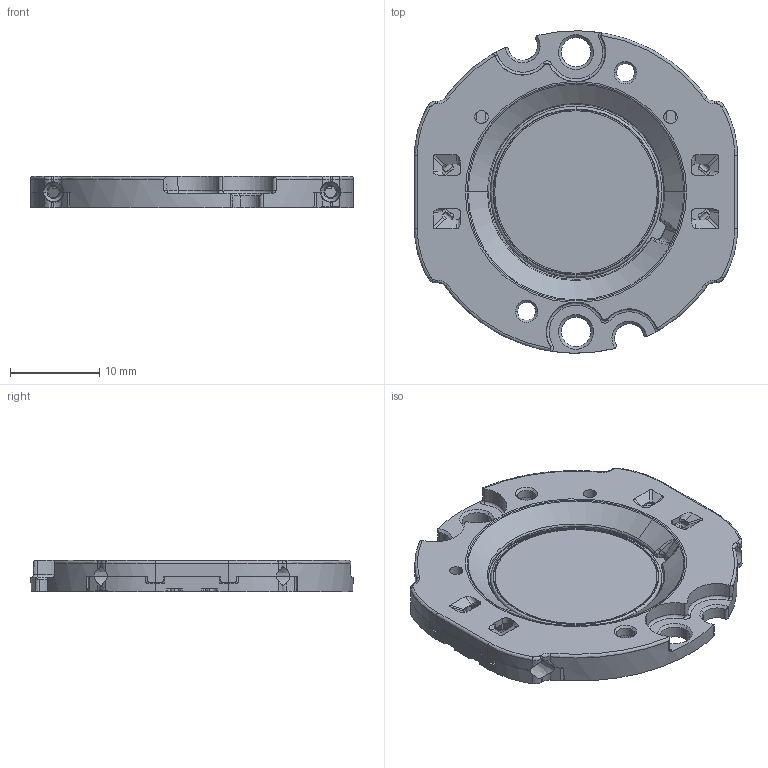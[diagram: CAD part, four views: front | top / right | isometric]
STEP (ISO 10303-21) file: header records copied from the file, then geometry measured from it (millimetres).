
FILE_DESCRIPTION (( 'STEP AP214' ), '1' );
FILE_NAME ('GEN8 Vero18 SE.STEP', '2020-09-15T02:44:06', ( '' ), ( '' ), 'SwSTEP 2.0', 'SolidWorks 2018', '' );
FILE_SCHEMA (( 'AUTOMOTIVE_DESIGN' ));
Length unit declared in the file: millimetre
Products named in the file (1): GEN8 Vero18 SE
Bounding box: 36.26 x 36.19 x 3.5 mm (x, y, z)
Volume: 2183 mm3; surface area: 5030.6 mm2
Topology: 8 solids, 8 shells, 1877 faces, 5151 edges, 3319 vertices
Faces by surface type: bspline 1011, plane 803, cylinder 57, torus 6
Entity records: 89437 total; most frequent: CARTESIAN_POINT 25528, ORIENTED_EDGE 10302, DIRECTION 7467, EDGE_CURVE 5151, VERTEX_POINT 3319, LINE 2723, VECTOR 2723, AXIS2_PLACEMENT_3D 2372
